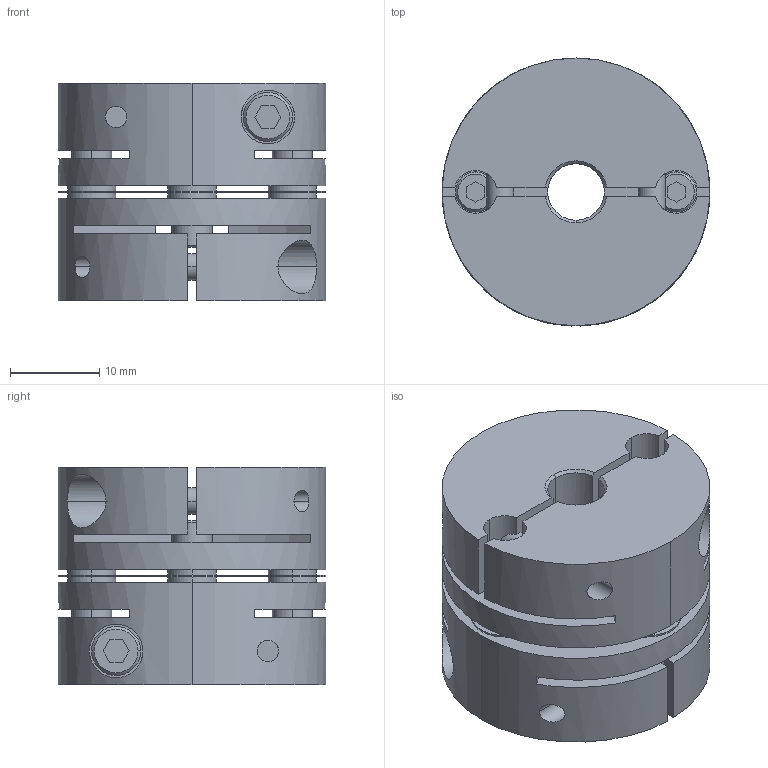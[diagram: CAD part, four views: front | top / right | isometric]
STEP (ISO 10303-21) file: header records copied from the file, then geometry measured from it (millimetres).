
FILE_DESCRIPTION((''),'2;1');
FILE_NAME('LAS-30C-6.35×9.525.stp','2015-10-14T15:15:40',(''),(''),'AutoCAD STEP 2000i','AutoCAD 2000i',', , ');
FILE_SCHEMA(('CONFIG_CONTROL_DESIGN'));
Length unit declared in the file: millimetre
Products named in the file (5): LAS-30C-6×6; 忣兜1; LA-3002-D06-1; LA-3002-D06; LAS30-ITA
Assembly tree (4 placements, depth 2):
  LAS-30C-6×6
    忣兜1
    LA-3002-D06-1
    LA-3002-D06
    LAS30-ITA
Bounding box: 30 x 30 x 24.4 mm (x, y, z)
Volume: 13283.4 mm3; surface area: 9186.3 mm2
Topology: 1 solids, 1 shells, 236 faces, 624 edges, 408 vertices
Faces by surface type: plane 112, cylinder 96, cone 28
Entity records: 8139 total; most frequent: CARTESIAN_POINT 1945, DIRECTION 1302, ORIENTED_EDGE 1248, EDGE_CURVE 624, AXIS2_PLACEMENT_3D 477, VERTEX_POINT 408, VECTOR 348, LINE 348
